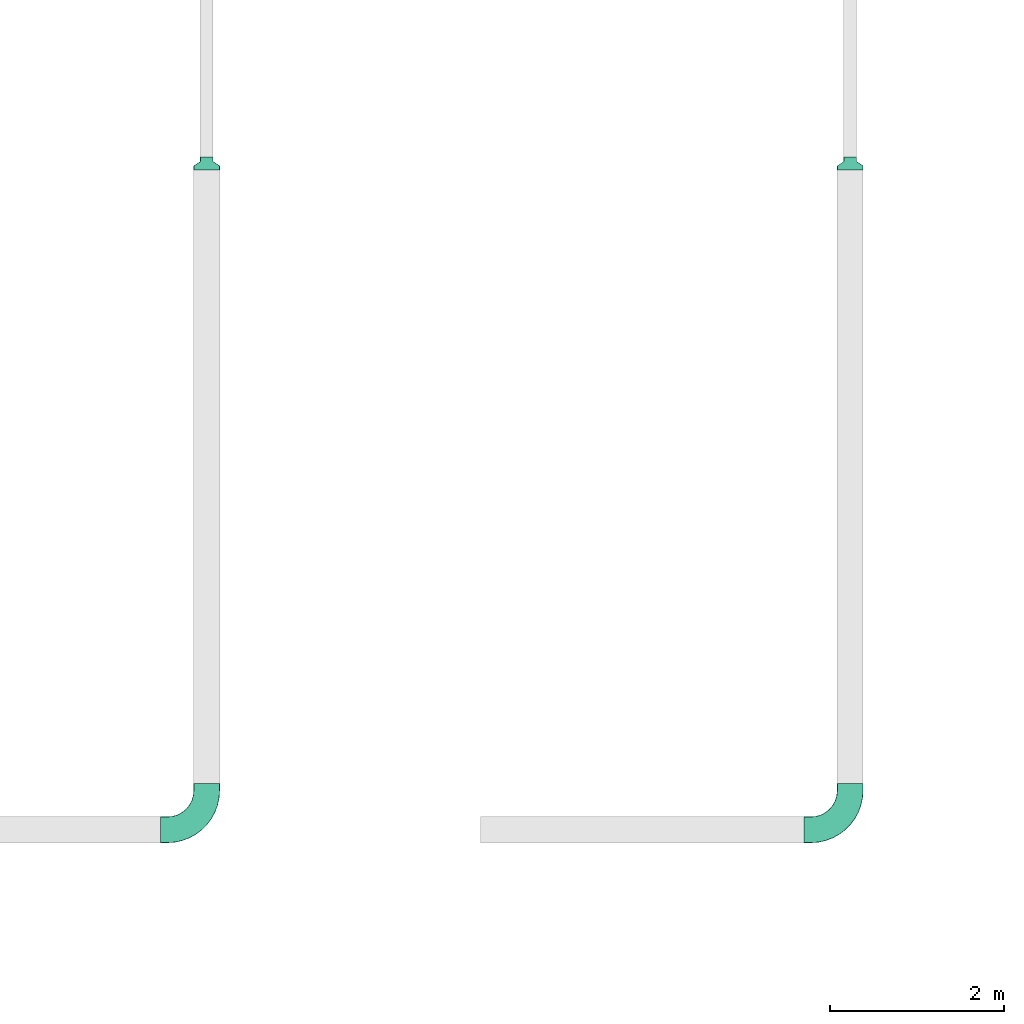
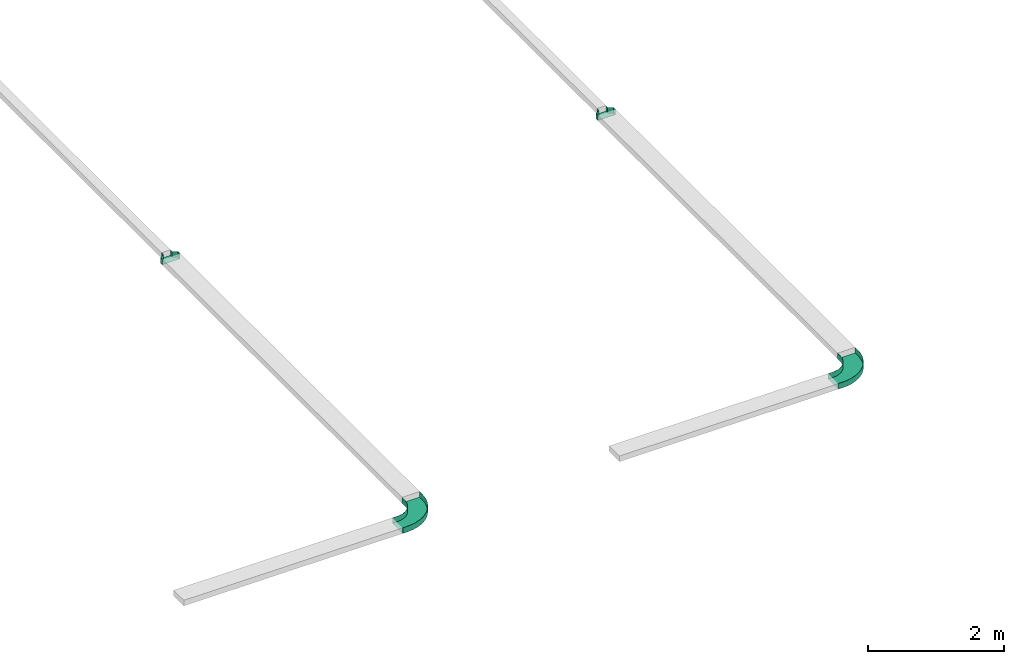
# One storey, part 31 of 197: 4 flow fittings.
"""IFC2X3 building model written with IfcOpenShell, lengths in metres."""

from ifc_helpers import new_model, entity, si_unit, converted_unit, direction, frame, origin, place, context, subcontext, project, spatial, faceted_brep, source, transform, mapped, material, type_object, type_shapes, element, save


model = new_model("IFC2X3")

# Units and contexts
model_context = context("Model", 3, precision=1e-05, world=origin(), true_north=direction((6.123031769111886e-17, 1.0)))
body_context = subcontext(model_context, "Body", "Model", "MODEL_VIEW")
ifc_project = project(units=[si_unit("LENGTHUNIT", "METRE"), converted_unit("PLANEANGLEUNIT", "DEGREE", entity("IfcPlaneAngleMeasure", 0.017453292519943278), si_unit("PLANEANGLEUNIT", "RADIAN"), dimensions=[0, 0, 0, 0, 0, 0, 0]), si_unit("AREAUNIT", "SQUARE_METRE")], contexts=[model_context])

# Site, building, storey
site_placement = place(None, origin())
site = spatial("IfcSite", under=ifc_project, at=site_placement, Name="Default", CompositionType="ELEMENT")
building_placement = place(site_placement, origin())
building = spatial("IfcBuilding", under=site, at=building_placement, CompositionType="ELEMENT")
storey_placement = place(building_placement, origin())
storey = spatial("IfcBuildingStorey", under=building, at=storey_placement, Name="Niveau 0", CompositionType="ELEMENT", Elevation=0.0)

# Flow fittings
ifc_material = material(Name="<Unnamed>")
cable_carrier_fitting_type_1 = type_object("IfcCableCarrierFittingType", Name="Chemin de câbles - Courbure:CDC CFA", PredefinedType="NOTDEFINED", material=ifc_material)
shared_shape_1 = source(origin(), body_context, "Body", "Brep", [
    faceted_brep([(-0.5299999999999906, -0.14746000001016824, -0.047460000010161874), (-0.5299999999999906, 0.14746000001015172, -0.047460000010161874), (-0.5299999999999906, 0.14746000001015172, 0.04999999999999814), (-0.5299999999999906, 0.14999999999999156, 0.04999999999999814), (-0.5299999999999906, 0.14999999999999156, -0.05000000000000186), (-0.5299999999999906, -0.1500000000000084, -0.05000000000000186), (-0.5299999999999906, -0.1500000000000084, 0.04999999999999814), (-0.5299999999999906, -0.14746000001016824, 0.04999999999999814), (-0.44999999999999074, -0.15000000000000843, -0.050000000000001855), (-0.44999999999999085, -0.15000000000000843, 0.04999999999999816), (-0.3646110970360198, -0.1438928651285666, 0.04999999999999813), (-0.2809604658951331, -0.12569578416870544, 0.049999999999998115), (-0.2007509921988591, -0.09577919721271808, 0.04999999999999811), (-0.12561550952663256, -0.054752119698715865, 0.0499999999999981), (-0.05708355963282, -0.0034497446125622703, 0.049999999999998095), (0.0034497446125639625, 0.05708355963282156, 0.04999999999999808), (0.05475211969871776, 0.12561550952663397, 0.04999999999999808), (0.09577919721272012, 0.20075099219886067, 0.049999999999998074), (0.12569578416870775, 0.2809604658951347, 0.049999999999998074), (0.14389286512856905, 0.3646110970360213, 0.049999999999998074), (0.15000000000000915, 0.44999999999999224, 0.04999999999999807), (0.15000000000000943, 0.5299999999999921, 0.04999999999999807), (0.14746000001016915, 0.5299999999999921, 0.049999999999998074), (0.1474600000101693, 0.4499999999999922, 0.049999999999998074), (0.14137871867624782, 0.3649725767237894, 0.049999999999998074), (0.12325867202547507, 0.28167606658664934, 0.049999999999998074), (0.09346873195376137, 0.20180614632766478, 0.049999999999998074), (0.05261533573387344, 0.12698873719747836, 0.04999999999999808), (0.0015301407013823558, 0.05874690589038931, 0.04999999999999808), (-0.05874690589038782, -0.0015301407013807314, 0.049999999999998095), (-0.12698873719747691, -0.05261533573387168, 0.0499999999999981), (-0.20180614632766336, -0.09346873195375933, 0.04999999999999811), (-0.281676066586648, -0.1232586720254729, 0.049999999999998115), (-0.364972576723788, -0.1413787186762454, 0.04999999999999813), (-0.44999999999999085, -0.14746000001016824, 0.049999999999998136), (-0.44999999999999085, 0.14746000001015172, 0.04999999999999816), (-0.3909773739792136, 0.15327322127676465, 0.04999999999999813), (-0.3342229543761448, 0.17048948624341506, 0.04999999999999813), (-0.2819177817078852, 0.19844718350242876, 0.049999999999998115), (-0.2360719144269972, 0.2360719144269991, 0.04999999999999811), (-0.19844718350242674, 0.281917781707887, 0.04999999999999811), (-0.17048948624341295, 0.33422295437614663, 0.04999999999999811), (-0.15327322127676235, 0.39097737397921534, 0.0499999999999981), (-0.14746000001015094, 0.4499999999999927, 0.0499999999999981), (-0.1474600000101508, 0.5299999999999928, 0.0499999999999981), (-0.1499999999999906, 0.5299999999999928, 0.0499999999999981), (-0.1499999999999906, 0.4499999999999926, 0.0499999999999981), (-0.15576441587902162, 0.3914729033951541, 0.0499999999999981), (-0.17283614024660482, 0.3351949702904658, 0.04999999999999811), (-0.2005591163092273, 0.2833289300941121, 0.04999999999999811), (-0.23786796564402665, 0.2378679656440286, 0.04999999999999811), (-0.28332893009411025, 0.20055911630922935, 0.049999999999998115), (-0.33519497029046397, 0.17283614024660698, 0.04999999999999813), (-0.3914729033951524, 0.15576441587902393, 0.04999999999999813), (-0.44999999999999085, 0.14999999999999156, 0.049999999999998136), (-0.44999999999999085, -0.14746000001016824, -0.047460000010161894), (-0.364972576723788, -0.1413787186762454, -0.04746000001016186), (-0.281676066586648, -0.1232586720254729, -0.04746000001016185), (-0.20180614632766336, -0.09346873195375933, -0.04746000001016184), (-0.12698873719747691, -0.05261533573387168, -0.04746000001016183), (-0.05874690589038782, -0.0015301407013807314, -0.047460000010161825), (0.0015301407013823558, 0.05874690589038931, -0.04746000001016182), (0.05261533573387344, 0.12698873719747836, -0.04746000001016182), (0.09346873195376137, 0.20180614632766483, -0.047460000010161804), (0.12325867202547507, 0.28167606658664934, -0.047460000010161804), (0.14137871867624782, 0.3649725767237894, -0.047460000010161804), (0.147460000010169, 0.4499999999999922, -0.047460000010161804), (0.14746000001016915, 0.5299999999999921, -0.047460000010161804), (-0.1474600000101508, 0.5299999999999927, -0.04746000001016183), (-0.1474600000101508, 0.4499999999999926, -0.04746000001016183), (-0.15327322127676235, 0.39097737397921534, -0.04746000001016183), (-0.17048948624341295, 0.33422295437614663, -0.04746000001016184), (-0.19844718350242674, 0.28191778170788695, -0.04746000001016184), (-0.2360719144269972, 0.23607191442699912, -0.04746000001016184), (-0.2819177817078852, 0.19844718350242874, -0.04746000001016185), (-0.3342229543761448, 0.17048948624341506, -0.04746000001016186), (-0.3909773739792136, 0.15327322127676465, -0.04746000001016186), (-0.44999999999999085, 0.14746000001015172, -0.04746000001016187), (-0.44999999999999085, 0.14999999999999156, -0.05000000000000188), (-0.3914729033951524, 0.15576441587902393, -0.05000000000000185), (-0.33519497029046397, 0.17283614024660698, -0.05000000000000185), (-0.28332893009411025, 0.20055911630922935, -0.05000000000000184), (-0.23786796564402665, 0.2378679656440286, -0.050000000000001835), (-0.2005591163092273, 0.2833289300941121, -0.050000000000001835), (-0.17283614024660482, 0.3351949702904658, -0.050000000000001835), (-0.15576441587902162, 0.3914729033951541, -0.05000000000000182), (-0.14999999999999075, 0.4499999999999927, -0.05000000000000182), (-0.1499999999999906, 0.5299999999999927, -0.05000000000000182), (0.1500000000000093, 0.5299999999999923, -0.050000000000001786), (0.15000000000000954, 0.4499999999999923, -0.050000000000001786), (0.14389286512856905, 0.3646110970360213, -0.0500000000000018), (0.12569578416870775, 0.2809604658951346, -0.0500000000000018), (0.09577919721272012, 0.20075099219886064, -0.0500000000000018), (0.05475211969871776, 0.12561550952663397, -0.05000000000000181), (0.0034497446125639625, 0.05708355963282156, -0.05000000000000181), (-0.05708355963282, -0.0034497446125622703, -0.050000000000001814), (-0.12561550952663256, -0.054752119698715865, -0.05000000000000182), (-0.2007509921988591, -0.09577919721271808, -0.050000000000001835), (-0.2809604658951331, -0.12569578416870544, -0.05000000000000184), (-0.3646110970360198, -0.1438928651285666, -0.05000000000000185)], [[[0, 1, 2, 3, 4, 5, 6, 7]], [[6, 5, 8, 9]], [[6, 9, 10, 11, 12, 13, 14, 15, 16, 17, 18, 19, 20, 21, 22, 23, 24, 25, 26, 27, 28, 29, 30, 31, 32, 33, 34, 7]], [[3, 2, 35, 36, 37, 38, 39, 40, 41, 42, 43, 44, 45, 46, 47, 48, 49, 50, 51, 52, 53, 54]], [[0, 7, 34, 55]], [[0, 55, 56, 57, 58, 59, 60, 61, 62, 63, 64, 65, 66, 67, 68, 69, 70, 71, 72, 73, 74, 75, 76, 77, 1]], [[2, 1, 77, 35]], [[4, 3, 54, 78]], [[79, 80, 81, 82, 83, 84, 85, 86, 87, 88, 89, 90, 91, 92, 93, 94, 95, 96, 97, 98, 99, 8, 5, 4, 78]], [[99, 10, 9, 8]], [[98, 11, 10, 99]], [[96, 95, 14, 13]], [[97, 12, 11, 98]], [[12, 97, 96, 13]], [[95, 94, 15, 14]], [[15, 94, 93, 16]], [[92, 17, 16, 93]], [[18, 91, 90, 19]], [[92, 91, 18, 17]], [[19, 90, 89, 20]], [[55, 34, 33, 56]], [[56, 33, 32, 57]], [[29, 60, 59, 30]], [[57, 32, 31, 58]], [[59, 58, 31, 30]], [[29, 28, 61, 60]], [[62, 61, 28, 27]], [[62, 27, 26, 63]], [[65, 64, 25, 24]], [[26, 25, 64, 63]], [[66, 65, 24, 23]], [[36, 35, 77, 76]], [[76, 75, 37, 36]], [[74, 38, 37, 75]], [[73, 39, 38, 74]], [[40, 72, 71, 41]], [[41, 71, 70, 42]], [[42, 70, 69, 43]], [[73, 72, 40, 39]], [[79, 78, 54, 53]], [[52, 80, 79, 53]], [[80, 52, 51, 81]], [[51, 50, 82, 81]], [[84, 83, 49, 48]], [[85, 84, 48, 47]], [[86, 85, 47, 46]], [[50, 49, 83, 82]], [[87, 45, 44, 68, 67, 22, 21, 88]], [[20, 89, 88, 21]], [[66, 23, 22, 67]], [[43, 69, 68, 44]], [[86, 46, 45, 87]]]),
])
type_shapes(cable_carrier_fitting_type_1, [shared_shape_1])
flow_fitting_1_placement = place(storey_placement, frame((-510.12398006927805, 124.74551308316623, 2.75)))
element("IfcFlowFitting", 1, at=flow_fitting_1_placement, inside=storey, type_object=cable_carrier_fitting_type_1, material=ifc_material, Name="Chemin de câbles - Courbure:CDC CFA", ObjectType="Chemin de câbles - Courbure:CDC CFA", context=body_context, shape_type="MappedRepresentation", body=[
    mapped(shared_shape_1, transform((0.0, 0.0, 0.0), scale=1.0)),
])
cable_carrier_fitting_type_2 = type_object("IfcCableCarrierFittingType", Name="Chemin de câbles - Réduction:CDC CFA", PredefinedType="NOTDEFINED", material=ifc_material)
shared_shape_2 = source(origin(), body_context, "Body", "Brep", [
    faceted_brep([(0.0, -0.15000000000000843, -0.05000000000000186), (0.0, -0.15000000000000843, 0.04999999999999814), (0.0, -0.14746000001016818, 0.04999999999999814), (0.0, -0.14746000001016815, -0.04746000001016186), (0.0, 0.1474600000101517, -0.04746000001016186), (0.0, 0.1474600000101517, 0.04999999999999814), (0.0, 0.14999999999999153, 0.04999999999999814), (0.0, 0.14999999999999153, -0.05000000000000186), (0.14999999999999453, -0.07500000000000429, -0.04999999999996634), (0.14999999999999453, 0.0749999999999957, -0.04999999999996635), (0.14999999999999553, 0.0749999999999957, 0.05000000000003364), (0.14999999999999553, 0.07246000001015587, 0.050000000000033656), (0.14999999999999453, 0.07246000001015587, -0.04746000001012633), (0.14999999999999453, -0.07246000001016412, -0.047460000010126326), (0.14999999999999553, -0.07246000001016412, 0.05000000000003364), (0.14999999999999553, -0.07500000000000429, 0.05000000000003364), (0.0500000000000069, -0.15000000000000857, -0.05000000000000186), (0.050000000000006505, -0.15000000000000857, 0.04999999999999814), (0.09999999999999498, -0.07500000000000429, 0.04999999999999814), (0.10000000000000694, -0.07246000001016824, 0.04999999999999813), (0.05000000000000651, -0.14746000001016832, 0.04999999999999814), (0.05000000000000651, -0.14746000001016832, -0.04746000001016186), (0.09999999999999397, -0.07246000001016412, -0.04746000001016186), (0.10000000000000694, 0.07246000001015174, -0.04746000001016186), (0.05000000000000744, 0.14746000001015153, -0.04746000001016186), (0.05000000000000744, 0.14746000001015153, 0.04999999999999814), (0.09999999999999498, 0.07246000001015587, 0.04999999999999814), (0.10000000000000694, 0.07499999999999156, 0.04999999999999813), (0.05000000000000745, 0.1499999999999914, 0.04999999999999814), (0.05000000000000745, 0.1499999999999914, -0.05000000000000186), (0.09999999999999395, 0.0749999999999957, -0.05000000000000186), (0.10000000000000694, -0.07500000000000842, -0.05000000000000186)], [[[0, 1, 2, 3, 4, 5, 6, 7]], [[8, 9, 10, 11, 12, 13, 14, 15]], [[1, 0, 16, 17]], [[2, 1, 17, 18, 15, 14, 19, 20]], [[3, 2, 20, 21]], [[4, 3, 21, 22, 13, 12, 23, 24]], [[5, 4, 24, 25]], [[6, 5, 25, 26, 11, 10, 27, 28]], [[7, 6, 28, 29]], [[0, 7, 29, 30, 9, 8, 31, 16]], [[8, 15, 18, 31]], [[14, 13, 22, 19]], [[12, 11, 26, 23]], [[10, 9, 30, 27]], [[30, 29, 28, 27]], [[26, 25, 24, 23]], [[22, 21, 20, 19]], [[16, 31, 18, 17]]]),
])
type_shapes(cable_carrier_fitting_type_2, [shared_shape_2])
flow_fitting_2_placement = place(storey_placement, frame((-510.12398006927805, 132.31751308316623, 2.75), z_axis=(0.0, 0.0, 1.0), x_axis=(0.0, 1.0, 0.0)))
element("IfcFlowFitting", 2, at=flow_fitting_2_placement, inside=storey, type_object=cable_carrier_fitting_type_2, material=ifc_material, Name="Chemin de câbles - Réduction:CDC CFA", ObjectType="Chemin de câbles - Réduction:CDC CFA", context=body_context, shape_type="MappedRepresentation", body=[
    mapped(shared_shape_2, transform((0.0, 0.0, 0.0), scale=1.0)),
])
cable_carrier_fitting_type_3 = type_object("IfcCableCarrierFittingType", Name="Chemin de câbles - Courbure:CDC CFO", PredefinedType="NOTDEFINED", material=ifc_material)
shared_shape_3 = source(origin(), body_context, "Body", "Brep", [
    faceted_brep([(-0.5299999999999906, -0.14746000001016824, -0.047460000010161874), (-0.5299999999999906, 0.14746000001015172, -0.047460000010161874), (-0.5299999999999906, 0.14746000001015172, 0.04999999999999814), (-0.5299999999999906, 0.14999999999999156, 0.04999999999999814), (-0.5299999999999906, 0.14999999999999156, -0.05000000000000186), (-0.5299999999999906, -0.1500000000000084, -0.05000000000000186), (-0.5299999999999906, -0.1500000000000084, 0.04999999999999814), (-0.5299999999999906, -0.14746000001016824, 0.04999999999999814), (-0.44999999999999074, -0.15000000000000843, -0.050000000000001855), (-0.44999999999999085, -0.15000000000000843, 0.04999999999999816), (-0.3646110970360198, -0.1438928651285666, 0.04999999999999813), (-0.2809604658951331, -0.12569578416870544, 0.049999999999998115), (-0.2007509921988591, -0.09577919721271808, 0.04999999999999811), (-0.12561550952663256, -0.054752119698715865, 0.0499999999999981), (-0.05708355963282, -0.0034497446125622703, 0.049999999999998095), (0.0034497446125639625, 0.05708355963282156, 0.04999999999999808), (0.05475211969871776, 0.12561550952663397, 0.04999999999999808), (0.09577919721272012, 0.20075099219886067, 0.049999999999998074), (0.12569578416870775, 0.2809604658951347, 0.049999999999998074), (0.14389286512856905, 0.3646110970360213, 0.049999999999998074), (0.15000000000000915, 0.44999999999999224, 0.04999999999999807), (0.15000000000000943, 0.5299999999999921, 0.04999999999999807), (0.14746000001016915, 0.5299999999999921, 0.049999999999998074), (0.1474600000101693, 0.4499999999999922, 0.049999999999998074), (0.14137871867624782, 0.3649725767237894, 0.049999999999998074), (0.12325867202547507, 0.28167606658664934, 0.049999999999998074), (0.09346873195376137, 0.20180614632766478, 0.049999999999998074), (0.05261533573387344, 0.12698873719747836, 0.04999999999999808), (0.0015301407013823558, 0.05874690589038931, 0.04999999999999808), (-0.05874690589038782, -0.0015301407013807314, 0.049999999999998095), (-0.12698873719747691, -0.05261533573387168, 0.0499999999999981), (-0.20180614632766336, -0.09346873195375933, 0.04999999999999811), (-0.281676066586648, -0.1232586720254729, 0.049999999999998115), (-0.364972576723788, -0.1413787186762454, 0.04999999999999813), (-0.44999999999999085, -0.14746000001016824, 0.049999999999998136), (-0.44999999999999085, 0.14746000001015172, 0.04999999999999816), (-0.3909773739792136, 0.15327322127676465, 0.04999999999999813), (-0.3342229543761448, 0.17048948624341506, 0.04999999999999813), (-0.2819177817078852, 0.19844718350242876, 0.049999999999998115), (-0.2360719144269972, 0.2360719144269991, 0.04999999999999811), (-0.19844718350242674, 0.281917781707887, 0.04999999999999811), (-0.17048948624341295, 0.33422295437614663, 0.04999999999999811), (-0.15327322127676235, 0.39097737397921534, 0.0499999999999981), (-0.14746000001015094, 0.4499999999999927, 0.0499999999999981), (-0.1474600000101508, 0.5299999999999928, 0.0499999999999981), (-0.1499999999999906, 0.5299999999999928, 0.0499999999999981), (-0.1499999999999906, 0.4499999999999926, 0.0499999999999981), (-0.15576441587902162, 0.3914729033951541, 0.0499999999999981), (-0.17283614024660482, 0.3351949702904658, 0.04999999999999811), (-0.2005591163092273, 0.2833289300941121, 0.04999999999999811), (-0.23786796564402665, 0.2378679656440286, 0.04999999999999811), (-0.28332893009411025, 0.20055911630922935, 0.049999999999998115), (-0.33519497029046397, 0.17283614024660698, 0.04999999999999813), (-0.3914729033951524, 0.15576441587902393, 0.04999999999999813), (-0.44999999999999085, 0.14999999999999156, 0.049999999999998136), (-0.44999999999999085, -0.14746000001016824, -0.047460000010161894), (-0.364972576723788, -0.1413787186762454, -0.04746000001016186), (-0.281676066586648, -0.1232586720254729, -0.04746000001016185), (-0.20180614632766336, -0.09346873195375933, -0.04746000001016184), (-0.12698873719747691, -0.05261533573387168, -0.04746000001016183), (-0.05874690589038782, -0.0015301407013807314, -0.047460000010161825), (0.0015301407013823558, 0.05874690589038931, -0.04746000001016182), (0.05261533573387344, 0.12698873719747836, -0.04746000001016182), (0.09346873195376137, 0.20180614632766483, -0.047460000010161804), (0.12325867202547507, 0.28167606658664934, -0.047460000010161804), (0.14137871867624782, 0.3649725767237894, -0.047460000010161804), (0.147460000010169, 0.4499999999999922, -0.047460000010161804), (0.14746000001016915, 0.5299999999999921, -0.047460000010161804), (-0.1474600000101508, 0.5299999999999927, -0.04746000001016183), (-0.1474600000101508, 0.4499999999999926, -0.04746000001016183), (-0.15327322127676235, 0.39097737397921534, -0.04746000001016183), (-0.17048948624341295, 0.33422295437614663, -0.04746000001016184), (-0.19844718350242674, 0.28191778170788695, -0.04746000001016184), (-0.2360719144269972, 0.23607191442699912, -0.04746000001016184), (-0.2819177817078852, 0.19844718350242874, -0.04746000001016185), (-0.3342229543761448, 0.17048948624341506, -0.04746000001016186), (-0.3909773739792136, 0.15327322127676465, -0.04746000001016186), (-0.44999999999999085, 0.14746000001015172, -0.04746000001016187), (-0.44999999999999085, 0.14999999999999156, -0.05000000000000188), (-0.3914729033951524, 0.15576441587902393, -0.05000000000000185), (-0.33519497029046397, 0.17283614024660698, -0.05000000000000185), (-0.28332893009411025, 0.20055911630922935, -0.05000000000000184), (-0.23786796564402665, 0.2378679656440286, -0.050000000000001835), (-0.2005591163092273, 0.2833289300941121, -0.050000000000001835), (-0.17283614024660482, 0.3351949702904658, -0.050000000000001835), (-0.15576441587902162, 0.3914729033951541, -0.05000000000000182), (-0.14999999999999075, 0.4499999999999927, -0.05000000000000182), (-0.1499999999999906, 0.5299999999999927, -0.05000000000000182), (0.1500000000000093, 0.5299999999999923, -0.050000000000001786), (0.15000000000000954, 0.4499999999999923, -0.050000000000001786), (0.14389286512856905, 0.3646110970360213, -0.0500000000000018), (0.12569578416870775, 0.2809604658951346, -0.0500000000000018), (0.09577919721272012, 0.20075099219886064, -0.0500000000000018), (0.05475211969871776, 0.12561550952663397, -0.05000000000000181), (0.0034497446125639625, 0.05708355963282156, -0.05000000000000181), (-0.05708355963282, -0.0034497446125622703, -0.050000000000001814), (-0.12561550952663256, -0.054752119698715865, -0.05000000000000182), (-0.2007509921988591, -0.09577919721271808, -0.050000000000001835), (-0.2809604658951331, -0.12569578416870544, -0.05000000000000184), (-0.3646110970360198, -0.1438928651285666, -0.05000000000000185)], [[[0, 1, 2, 3, 4, 5, 6, 7]], [[6, 5, 8, 9]], [[6, 9, 10, 11, 12, 13, 14, 15, 16, 17, 18, 19, 20, 21, 22, 23, 24, 25, 26, 27, 28, 29, 30, 31, 32, 33, 34, 7]], [[3, 2, 35, 36, 37, 38, 39, 40, 41, 42, 43, 44, 45, 46, 47, 48, 49, 50, 51, 52, 53, 54]], [[0, 7, 34, 55]], [[0, 55, 56, 57, 58, 59, 60, 61, 62, 63, 64, 65, 66, 67, 68, 69, 70, 71, 72, 73, 74, 75, 76, 77, 1]], [[2, 1, 77, 35]], [[4, 3, 54, 78]], [[79, 80, 81, 82, 83, 84, 85, 86, 87, 88, 89, 90, 91, 92, 93, 94, 95, 96, 97, 98, 99, 8, 5, 4, 78]], [[99, 10, 9, 8]], [[98, 11, 10, 99]], [[96, 95, 14, 13]], [[97, 12, 11, 98]], [[12, 97, 96, 13]], [[95, 94, 15, 14]], [[15, 94, 93, 16]], [[92, 17, 16, 93]], [[18, 91, 90, 19]], [[92, 91, 18, 17]], [[19, 90, 89, 20]], [[55, 34, 33, 56]], [[56, 33, 32, 57]], [[29, 60, 59, 30]], [[57, 32, 31, 58]], [[59, 58, 31, 30]], [[29, 28, 61, 60]], [[62, 61, 28, 27]], [[62, 27, 26, 63]], [[65, 64, 25, 24]], [[26, 25, 64, 63]], [[66, 65, 24, 23]], [[36, 35, 77, 76]], [[76, 75, 37, 36]], [[74, 38, 37, 75]], [[73, 39, 38, 74]], [[40, 72, 71, 41]], [[41, 71, 70, 42]], [[42, 70, 69, 43]], [[73, 72, 40, 39]], [[79, 78, 54, 53]], [[52, 80, 79, 53]], [[80, 52, 51, 81]], [[51, 50, 82, 81]], [[84, 83, 49, 48]], [[85, 84, 48, 47]], [[86, 85, 47, 46]], [[50, 49, 83, 82]], [[87, 45, 44, 68, 67, 22, 21, 88]], [[20, 89, 88, 21]], [[66, 23, 22, 67]], [[43, 69, 68, 44]], [[86, 46, 45, 87]]]),
])
type_shapes(cable_carrier_fitting_type_3, [shared_shape_3])
flow_fitting_3_placement = place(storey_placement, frame((-502.73698006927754, 124.74551308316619, 2.75)))
element("IfcFlowFitting", 3, at=flow_fitting_3_placement, inside=storey, type_object=cable_carrier_fitting_type_3, material=ifc_material, Name="Chemin de câbles - Courbure:CDC CFO", ObjectType="Chemin de câbles - Courbure:CDC CFO", context=body_context, shape_type="MappedRepresentation", body=[
    mapped(shared_shape_3, transform((0.0, 0.0, 0.0), scale=1.0)),
])
cable_carrier_fitting_type_4 = type_object("IfcCableCarrierFittingType", Name="Chemin de câbles - Réduction:CDC CFO", PredefinedType="NOTDEFINED", material=ifc_material)
shared_shape_4 = source(origin(), body_context, "Body", "Brep", [
    faceted_brep([(0.0, -0.15000000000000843, -0.05000000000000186), (0.0, -0.15000000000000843, 0.04999999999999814), (0.0, -0.14746000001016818, 0.04999999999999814), (0.0, -0.14746000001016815, -0.04746000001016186), (0.0, 0.1474600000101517, -0.04746000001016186), (0.0, 0.1474600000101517, 0.04999999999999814), (0.0, 0.14999999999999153, 0.04999999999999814), (0.0, 0.14999999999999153, -0.05000000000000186), (0.14999999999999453, -0.07500000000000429, -0.04999999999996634), (0.14999999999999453, 0.0749999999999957, -0.04999999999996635), (0.14999999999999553, 0.0749999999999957, 0.05000000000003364), (0.14999999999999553, 0.07246000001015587, 0.050000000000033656), (0.14999999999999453, 0.07246000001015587, -0.04746000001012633), (0.14999999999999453, -0.07246000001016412, -0.047460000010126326), (0.14999999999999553, -0.07246000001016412, 0.05000000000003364), (0.14999999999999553, -0.07500000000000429, 0.05000000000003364), (0.0500000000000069, -0.15000000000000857, -0.05000000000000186), (0.050000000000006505, -0.15000000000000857, 0.04999999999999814), (0.09999999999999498, -0.07500000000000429, 0.04999999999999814), (0.10000000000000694, -0.07246000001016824, 0.04999999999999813), (0.05000000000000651, -0.14746000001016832, 0.04999999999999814), (0.05000000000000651, -0.14746000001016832, -0.04746000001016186), (0.09999999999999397, -0.07246000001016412, -0.04746000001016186), (0.10000000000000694, 0.07246000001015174, -0.04746000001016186), (0.05000000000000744, 0.14746000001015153, -0.04746000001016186), (0.05000000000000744, 0.14746000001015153, 0.04999999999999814), (0.09999999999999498, 0.07246000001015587, 0.04999999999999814), (0.10000000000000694, 0.07499999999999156, 0.04999999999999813), (0.05000000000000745, 0.1499999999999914, 0.04999999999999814), (0.05000000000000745, 0.1499999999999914, -0.05000000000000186), (0.09999999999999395, 0.0749999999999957, -0.05000000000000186), (0.10000000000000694, -0.07500000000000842, -0.05000000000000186)], [[[0, 1, 2, 3, 4, 5, 6, 7]], [[8, 9, 10, 11, 12, 13, 14, 15]], [[1, 0, 16, 17]], [[2, 1, 17, 18, 15, 14, 19, 20]], [[3, 2, 20, 21]], [[4, 3, 21, 22, 13, 12, 23, 24]], [[5, 4, 24, 25]], [[6, 5, 25, 26, 11, 10, 27, 28]], [[7, 6, 28, 29]], [[0, 7, 29, 30, 9, 8, 31, 16]], [[8, 15, 18, 31]], [[14, 13, 22, 19]], [[12, 11, 26, 23]], [[10, 9, 30, 27]], [[30, 29, 28, 27]], [[26, 25, 24, 23]], [[22, 21, 20, 19]], [[16, 31, 18, 17]]]),
])
type_shapes(cable_carrier_fitting_type_4, [shared_shape_4])
flow_fitting_4_placement = place(storey_placement, frame((-502.73698006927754, 132.31751308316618, 2.75), z_axis=(0.0, 0.0, 1.0), x_axis=(0.0, 1.0, 0.0)))
element("IfcFlowFitting", 4, at=flow_fitting_4_placement, inside=storey, type_object=cable_carrier_fitting_type_4, material=ifc_material, Name="Chemin de câbles - Réduction:CDC CFO", ObjectType="Chemin de câbles - Réduction:CDC CFO", context=body_context, shape_type="MappedRepresentation", body=[
    mapped(shared_shape_4, transform((0.0, 0.0, 0.0), scale=1.0)),
])

save(model, "model.ifc")
